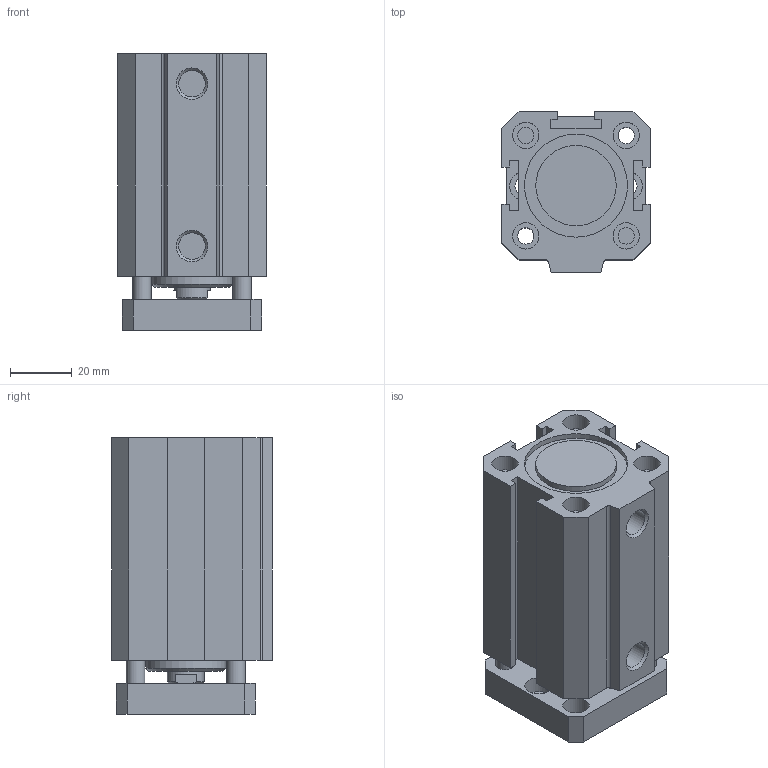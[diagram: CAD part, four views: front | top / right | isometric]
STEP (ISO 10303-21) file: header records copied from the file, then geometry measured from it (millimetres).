
FILE_DESCRIPTION(/* description */ (''),/* implementation_level */ '2;1');
FILE_NAME(/* name */ 'I:\Area Tecnica\Disegni\VARIE-3D\Componenti\1500\Ø32\15##_32_####_#\1501_32_0040_AR.stp',/* time_stamp */ '2016-08-24T11:28:52+02:00',/* author */ ('Maniean1'),/* organization */ ('Pneumax S.p.A.'),/* preprocessor_version */ 'ST-DEVELOPER v15.2',/* originating_system */ 'Autodesk Inventor 2014',/* authorisation */ '');
FILE_SCHEMA (('AUTOMOTIVE_DESIGN { 1 0 10303 214 3 1 1 }'));
Length unit declared in the file: millimetre
Products named in the file (3): C_1501_32_0040_AR; S_1501_32_0040_AR; 1501_32_0040_AR
Bounding box: 48 x 52 x 89.5 mm (x, y, z)
Volume: 135193.2 mm3; surface area: 49669.9 mm2
Topology: 2 solids, 2 shells, 113 faces, 261 edges, 174 vertices
Faces by surface type: plane 74, cylinder 34, cone 5
Full cylindrical faces by diameter (mm): 4.134 x2, 5.3 x4, 5.5 x2, 6 x4, 8.5 x8, 8.566 x2, 9 x2, 12 x2, 26 x2, 32 x2, 33.3 x2
Entity records: 3153 total; most frequent: DIRECTION 530, CARTESIAN_POINT 518, ORIENTED_EDGE 444, EDGE_CURVE 222, AXIS2_PLACEMENT_3D 194, EDGE_LOOP 190, VERTEX_POINT 170, LINE 142
